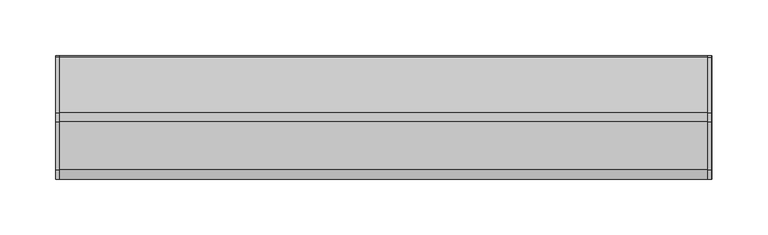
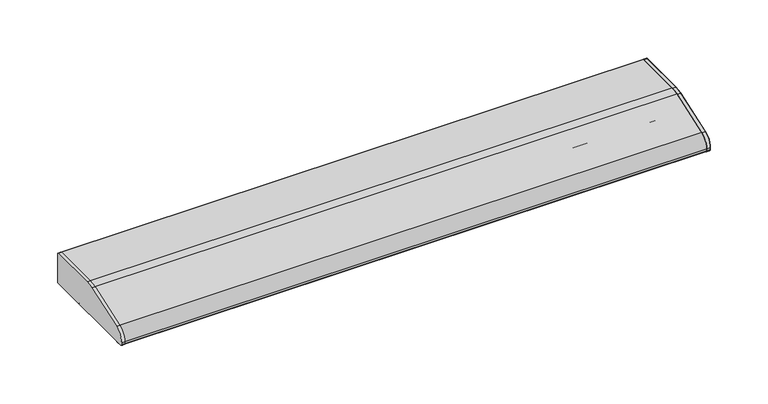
"""IFC4 building model written with IfcOpenShell, lengths in millimetres: light fixture geometry, HermanMiller_SupplementalProducts_G6136_UtilityTaskLight : AO Etho Canvas 30W."""

from ifc_helpers import new_model, si_unit, point, frame, frame_2d, origin, place, context, project, spatial, polyline, circle_curve, trimmed, segment, composite_curve, outline, extrude, source, transform, mapped, element, save


def light_fixture_da618033(model_context):
    return source(origin(), model_context, "Body", "SweptSolid", [
        extrude(outline(composite_curve([segment(polyline([(53.975, 1244.6), (-53.975, 1244.6)]), True, "CONTINUOUS"), segment(trimmed(circle_curve(frame_2d((-53.975, 1246.1875)), 1.5875), [point((-53.975, 1244.6))], [point((-55.5625, 1246.1875))], False, "CARTESIAN"), True, "CONTINUOUS"), segment(polyline([(-55.5625, 1246.1875), (-55.5625, 1248.2285714)]), True, "CONTINUOUS"), segment(trimmed(circle_curve(frame_2d((-42.8625, 1248.2285714)), 12.7), [point((-55.5625, 1248.2285714))], [point((-46.9814189, 1260.2420849))], False, "CARTESIAN"), True, "CONTINUOUS"), segment(polyline([(-46.9814189, 1260.2420849), (-4.0045045, 1274.977027)]), True, "CONTINUOUS"), segment(trimmed(circle_curve(frame_2d((4.2333333, 1250.95)), 25.4), [point((-4.0045045, 1274.977027))], [point((4.2333333, 1276.35))], False, "CARTESIAN"), True, "CONTINUOUS"), segment(polyline([(4.2333333, 1276.35), (53.975, 1276.35)]), True, "CONTINUOUS"), segment(trimmed(circle_curve(frame_2d((53.975, 1274.7625)), 1.5875), [point((53.975, 1276.35))], [point((55.5625, 1274.7625))], False, "CARTESIAN"), True, "CONTINUOUS"), segment(polyline([(55.5625, 1274.7625), (55.5625, 1246.1875)]), True, "CONTINUOUS"), segment(trimmed(circle_curve(frame_2d((53.975, 1246.1875)), 1.5875), [point((55.5625, 1246.1875))], [point((53.975, 1244.6))], False, "CARTESIAN"), True, "CONTINUOUS")], self_intersect=False)), frame((291.846, 0.0, 0.0), z_axis=(1.0, 0.0, 0.0), x_axis=(0.0, 1.0, 0.0)), (0.0, 0.0, 1.0), 3.175),
        extrude(outline(composite_curve([segment(trimmed(circle_curve(frame_2d((53.975, 1274.7625)), 1.5875), [point((53.975, 1276.35))], [point((55.5625, 1274.7625))], False, "CARTESIAN"), True, "CONTINUOUS"), segment(polyline([(55.5625, 1274.7625), (55.5625, 1246.1875)]), True, "CONTINUOUS"), segment(trimmed(circle_curve(frame_2d((53.975, 1246.1875)), 1.5875), [point((55.5625, 1246.1875))], [point((53.975, 1244.6))], False, "CARTESIAN"), True, "CONTINUOUS"), segment(polyline([(53.975, 1244.6), (-53.975, 1244.6)]), True, "CONTINUOUS"), segment(trimmed(circle_curve(frame_2d((-53.975, 1246.1875)), 1.5875), [point((-53.975, 1244.6))], [point((-55.5625, 1246.1875))], False, "CARTESIAN"), True, "CONTINUOUS"), segment(polyline([(-55.5625, 1246.1875), (-55.5625, 1248.2285714)]), True, "CONTINUOUS"), segment(trimmed(circle_curve(frame_2d((-42.8625, 1248.2285714)), 12.7), [point((-55.5625, 1248.2285714))], [point((-46.9814189, 1260.2420849))], False, "CARTESIAN"), True, "CONTINUOUS"), segment(polyline([(-46.9814189, 1260.2420849), (-4.0045045, 1274.977027)]), True, "CONTINUOUS"), segment(trimmed(circle_curve(frame_2d((4.2333333, 1250.95)), 25.4), [point((-4.0045045, 1274.977027))], [point((4.2333333, 1276.35))], False, "CARTESIAN"), True, "CONTINUOUS"), segment(polyline([(4.2333333, 1276.35), (53.975, 1276.35)]), True, "CONTINUOUS")], self_intersect=False)), frame((-295.021, 0.0, 0.0), z_axis=(1.0, 0.0, 0.0), x_axis=(0.0, 1.0, 0.0)), (0.0, 0.0, 1.0), 3.175),
        extrude(outline(composite_curve([segment(polyline([(55.5625, 1274.7625), (55.5625, 1246.1875)]), True, "CONTINUOUS"), segment(trimmed(circle_curve(frame_2d((53.975, 1246.1875)), 1.5875), [point((55.5625, 1246.1875))], [point((53.975, 1244.6))], False, "CARTESIAN"), True, "CONTINUOUS"), segment(polyline([(53.975, 1244.6), (19.05, 1244.6)]), True, "CONTINUOUS"), segment(trimmed(circle_curve(frame_2d((19.05, 1246.1875)), 1.5875), [point((19.05, 1244.6))], [point((17.4625, 1246.1875))], False, "CARTESIAN"), True, "CONTINUOUS"), segment(polyline([(17.4625, 1246.1875), (17.4625, 1274.7625), (4.4979167, 1274.7625)]), True, "CONTINUOUS"), segment(trimmed(circle_curve(frame_2d((4.4979167, 1249.3625)), 25.4), [point((4.4979167, 1274.7625))], [point((-3.7399212, 1273.389527))], True, "CARTESIAN"), True, "CONTINUOUS"), segment(polyline([(-3.7399212, 1273.389527), (-37.4564189, 1261.8295849)]), True, "CONTINUOUS"), segment(trimmed(circle_curve(frame_2d((-33.3375, 1249.8160714)), 12.7), [point((-37.4564189, 1261.8295849))], [point((-46.0375, 1249.8160714))], True, "CARTESIAN"), True, "CONTINUOUS"), segment(polyline([(-46.0375, 1249.8160714), (-46.0375, 1246.1875)]), True, "CONTINUOUS"), segment(trimmed(circle_curve(frame_2d((-47.625, 1246.1875)), 1.5875), [point((-46.0375, 1246.1875))], [point((-47.625, 1244.6))], False, "CARTESIAN"), True, "CONTINUOUS"), segment(polyline([(-47.625, 1244.6), (-53.975, 1244.6)]), True, "CONTINUOUS"), segment(trimmed(circle_curve(frame_2d((-53.975, 1246.1875)), 1.5875), [point((-53.975, 1244.6))], [point((-55.5625, 1246.1875))], False, "CARTESIAN"), True, "CONTINUOUS"), segment(polyline([(-55.5625, 1246.1875), (-55.5625, 1248.2285714)]), True, "CONTINUOUS"), segment(trimmed(circle_curve(frame_2d((-42.8625, 1248.2285714)), 12.7), [point((-55.5625, 1248.2285714))], [point((-46.9814189, 1260.2420849))], False, "CARTESIAN"), True, "CONTINUOUS"), segment(polyline([(-46.9814189, 1260.2420849), (-4.0045045, 1274.977027)]), True, "CONTINUOUS"), segment(trimmed(circle_curve(frame_2d((4.2333333, 1250.95)), 25.4), [point((-4.0045045, 1274.977027))], [point((4.2333333, 1276.35))], False, "CARTESIAN"), True, "CONTINUOUS"), segment(polyline([(4.2333333, 1276.35), (53.975, 1276.35)]), True, "CONTINUOUS"), segment(trimmed(circle_curve(frame_2d((53.975, 1274.7625)), 1.5875), [point((53.975, 1276.35))], [point((55.5625, 1274.7625))], False, "CARTESIAN"), True, "CONTINUOUS")], self_intersect=False)), frame((-295.021, 0.0, 0.0), z_axis=(1.0, 0.0, 0.0), x_axis=(0.0, 1.0, 0.0)), (0.0, 0.0, 1.0), 590.5080011),
        extrude(outline(composite_curve([segment(trimmed(circle_curve(frame_2d((1.5875, 1262.0625)), 9.525), [point((-7.9375, 1262.0625))], [point((11.1125, 1262.0625))], False, "CARTESIAN"), True, "CONTINUOUS"), segment(trimmed(circle_curve(frame_2d((1.5875, 1262.0625)), 9.525), [point((11.1125, 1262.0625))], [point((-7.9375, 1262.0625))], False, "CARTESIAN"), True, "CONTINUOUS")], self_intersect=False)), frame((269.621, 0.0, 0.0), z_axis=(1.0, 0.0, 0.0), x_axis=(0.0, 1.0, 0.0)), (0.0, 0.0, 1.0), 12.7),
        extrude(outline(composite_curve([segment(trimmed(circle_curve(frame_2d((1.5875, 1262.0625)), 9.525), [point((-7.9375, 1262.0625))], [point((11.1125, 1262.0625))], False, "CARTESIAN"), True, "CONTINUOUS"), segment(trimmed(circle_curve(frame_2d((1.5875, 1262.0625)), 9.525), [point((11.1125, 1262.0625))], [point((-7.9375, 1262.0625))], False, "CARTESIAN"), True, "CONTINUOUS")], self_intersect=False)), frame((-282.321, 0.0, 0.0), z_axis=(1.0, 0.0, 0.0), x_axis=(0.0, 1.0, 0.0)), (0.0, 0.0, 1.0), 12.7),
        extrude(outline(composite_curve([segment(trimmed(circle_curve(frame_2d((1.5875, 1262.0625)), 9.525), [point((-7.9375, 1262.0625))], [point((11.1125, 1262.0625))], False, "CARTESIAN"), True, "CONTINUOUS"), segment(trimmed(circle_curve(frame_2d((1.5875, 1262.0625)), 9.525), [point((11.1125, 1262.0625))], [point((-7.9375, 1262.0625))], False, "CARTESIAN"), True, "CONTINUOUS")], self_intersect=False)), frame((-269.621, 0.0, 0.0), z_axis=(1.0, 0.0, 0.0), x_axis=(0.0, 1.0, 0.0)), (0.0, 0.0, 1.0), 539.242),
        extrude(outline(composite_curve([segment(polyline([(17.4625, 1247.775), (-46.0375, 1247.775), (-46.0375, 1249.8160714)]), True, "CONTINUOUS"), segment(trimmed(circle_curve(frame_2d((-33.3375, 1249.8160714)), 12.7), [point((-46.0375, 1249.8160714))], [point((-37.4564189, 1261.8295849))], False, "CARTESIAN"), True, "CONTINUOUS"), segment(polyline([(-37.4564189, 1261.8295849), (-3.7399212, 1273.389527)]), True, "CONTINUOUS"), segment(trimmed(circle_curve(frame_2d((4.4979167, 1249.3625)), 25.4), [point((-3.7399212, 1273.389527))], [point((4.4979167, 1274.7625))], False, "CARTESIAN"), True, "CONTINUOUS"), segment(polyline([(4.4979167, 1274.7625), (17.4625, 1274.7625), (17.4625, 1247.775)]), True, "CONTINUOUS")], self_intersect=False)), frame((282.321, 0.0, 0.0), z_axis=(1.0, 0.0, 0.0), x_axis=(0.0, 1.0, 0.0)), (0.0, 0.0, 1.0), 9.525),
        extrude(outline(composite_curve([segment(polyline([(17.4625, 1247.775), (-46.0375, 1247.775), (-46.0375, 1249.8160714)]), True, "CONTINUOUS"), segment(trimmed(circle_curve(frame_2d((-33.3375, 1249.8160714)), 12.7), [point((-46.0375, 1249.8160714))], [point((-37.4564189, 1261.8295849))], False, "CARTESIAN"), True, "CONTINUOUS"), segment(polyline([(-37.4564189, 1261.8295849), (-3.7399212, 1273.389527)]), True, "CONTINUOUS"), segment(trimmed(circle_curve(frame_2d((4.4979167, 1249.3625)), 25.4), [point((-3.7399212, 1273.389527))], [point((4.4979167, 1274.7625))], False, "CARTESIAN"), True, "CONTINUOUS"), segment(polyline([(4.4979167, 1274.7625), (17.4625, 1274.7625), (17.4625, 1247.775)]), True, "CONTINUOUS")], self_intersect=False)), frame((-291.846, 0.0, 0.0), z_axis=(1.0, 0.0, 0.0), x_axis=(0.0, 1.0, 0.0)), (0.0, 0.0, 1.0), 9.525),
    ])


if __name__ == "__main__":
    model = new_model("IFC4")
    model_context = context("Model", 3, world=origin())
    ifc_project = project(units=[si_unit("LENGTHUNIT", "METRE", prefix="MILLI")], contexts=[model_context])
    site = spatial("IfcSite", under=ifc_project)
    building = spatial("IfcBuilding", under=site)
    placement = place(None, origin())
    light_fixture_shape = light_fixture_da618033(model_context)
    element("IfcLightFixture", 1, ObjectType="HermanMiller_SupplementalProducts_G6136_UtilityTaskLight : AO Etho Canvas 30W", at=placement, inside=building, context=model_context, shape_type="MappedRepresentation", body=[
        mapped(light_fixture_shape, transform((0.0, 0.0, 0.0), x_axis=(1.0, 0.0, 0.0), y_axis=(0.0, 1.0, 0.0), z_axis=(0.0, 0.0, 1.0))),
    ])
    save(model, "model.ifc")
